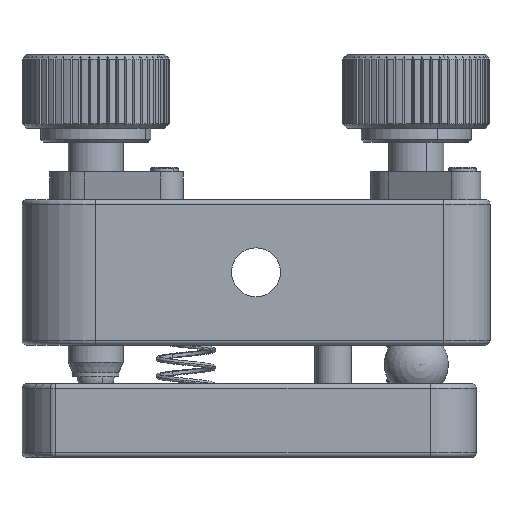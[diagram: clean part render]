
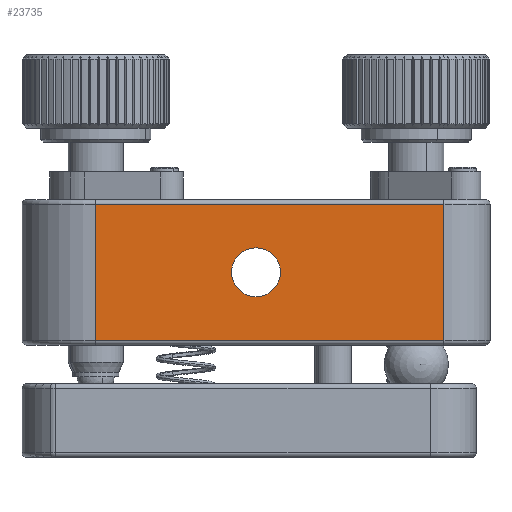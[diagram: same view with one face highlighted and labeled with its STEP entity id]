
A CAD part, left-side view. The second image highlights one B-rep face of the part: STEP entity #23735.
In plain terms, the highlighted planar face has unit normal (-1, 0, 0).
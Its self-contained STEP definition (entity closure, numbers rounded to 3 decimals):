
#33 = CARTESIAN_POINT ( 'NONE',  ( 31.252, 32.866, -43.489 ) ) ;
#610 = VERTEX_POINT ( 'NONE', #5942 ) ;
#1422 = EDGE_LOOP ( 'NONE', ( #4065, #3862 ) ) ;
#1604 = DIRECTION ( 'NONE',  ( 1., 0., 0. ) ) ;
#2029 = CARTESIAN_POINT ( 'NONE',  ( 31.252, 70.666, -43.489 ) ) ;
#3862 = ORIENTED_EDGE ( 'NONE', *, *, #11472, .F. ) ;
#4065 = ORIENTED_EDGE ( 'NONE', *, *, #4099, .F. ) ;
#4099 = EDGE_CURVE ( 'NONE', #31429, #11966, #26209, .T. ) ;
#4336 = FACE_OUTER_BOUND ( 'NONE', #13483, .T. ) ;
#4700 = LINE ( 'NONE', #15766, #23948 ) ;
#5734 = CARTESIAN_POINT ( 'NONE',  ( 31.252, 32.866, -42.989 ) ) ;
#5942 = CARTESIAN_POINT ( 'NONE',  ( 31.252, 32.866, -58.289 ) ) ;
#6265 = DIRECTION ( 'NONE',  ( 0., 0., -1. ) ) ;
#7019 = CARTESIAN_POINT ( 'NONE',  ( 31.252, 53.266, -50.889 ) ) ;
#9492 = CIRCLE ( 'NONE', #29844, 2.65 ) ;
#10110 = VECTOR ( 'NONE', #13104, 1000. ) ;
#10442 = EDGE_CURVE ( 'NONE', #18297, #13782, #26923, .T. ) ;
#10558 = AXIS2_PLACEMENT_3D ( 'NONE', #20086, #31178, #6265 ) ;
#10969 = CARTESIAN_POINT ( 'NONE',  ( 31.252, 70.666, -58.289 ) ) ;
#11472 = EDGE_CURVE ( 'NONE', #11966, #31429, #9492, .T. ) ;
#11917 = CARTESIAN_POINT ( 'NONE',  ( 31.252, 70.666, -58.289 ) ) ;
#11966 = VERTEX_POINT ( 'NONE', #27486 ) ;
#12669 = DIRECTION ( 'NONE',  ( 0., 0., 1. ) ) ;
#13104 = DIRECTION ( 'NONE',  ( 0., 1., 0. ) ) ;
#13483 = EDGE_LOOP ( 'NONE', ( #26732, #29204, #13719, #29091 ) ) ;
#13719 = ORIENTED_EDGE ( 'NONE', *, *, #35928, .F. ) ;
#13782 = VERTEX_POINT ( 'NONE', #34479 ) ;
#15403 = PLANE ( 'NONE',  #27040 ) ;
#15766 = CARTESIAN_POINT ( 'NONE',  ( 31.252, 70.666, -42.989 ) ) ;
#16796 = DIRECTION ( 'NONE',  ( 0., 0., -1. ) ) ;
#16888 = CARTESIAN_POINT ( 'NONE',  ( 31.252, 53.266, -53.539 ) ) ;
#18094 = DIRECTION ( 'NONE',  ( -1., 0., 0. ) ) ;
#18297 = VERTEX_POINT ( 'NONE', #33 ) ;
#20086 = CARTESIAN_POINT ( 'NONE',  ( 31.252, 53.266, -50.889 ) ) ;
#20904 = VECTOR ( 'NONE', #16796, 1000. ) ;
#22048 = DIRECTION ( 'NONE',  ( 0., -1., 0. ) ) ;
#22771 = VERTEX_POINT ( 'NONE', #11917 ) ;
#22937 = VECTOR ( 'NONE', #22048, 1000. ) ;
#23521 = EDGE_CURVE ( 'NONE', #22771, #610, #35867, .T. ) ;
#23735 = ADVANCED_FACE ( 'NONE', ( #29226, #4336 ), #15403, .F. ) ;
#23948 = VECTOR ( 'NONE', #26861, 1000. ) ;
#25324 = EDGE_CURVE ( 'NONE', #13782, #22771, #4700, .T. ) ;
#26209 = CIRCLE ( 'NONE', #10558, 2.65 ) ;
#26501 = CARTESIAN_POINT ( 'NONE',  ( 31.252, 70.666, -42.989 ) ) ;
#26732 = ORIENTED_EDGE ( 'NONE', *, *, #25324, .T. ) ;
#26861 = DIRECTION ( 'NONE',  ( 0., 0., -1. ) ) ;
#26923 = LINE ( 'NONE', #2029, #10110 ) ;
#27040 = AXIS2_PLACEMENT_3D ( 'NONE', #26501, #1604, #12669 ) ;
#27486 = CARTESIAN_POINT ( 'NONE',  ( 31.252, 53.266, -48.239 ) ) ;
#29091 = ORIENTED_EDGE ( 'NONE', *, *, #10442, .T. ) ;
#29194 = DIRECTION ( 'NONE',  ( 0., 0., -1. ) ) ;
#29204 = ORIENTED_EDGE ( 'NONE', *, *, #23521, .T. ) ;
#29226 = FACE_BOUND ( 'NONE', #1422, .T. ) ;
#29844 = AXIS2_PLACEMENT_3D ( 'NONE', #7019, #18094, #29194 ) ;
#30626 = LINE ( 'NONE', #5734, #20904 ) ;
#31178 = DIRECTION ( 'NONE',  ( -1., 0., 0. ) ) ;
#31429 = VERTEX_POINT ( 'NONE', #16888 ) ;
#34479 = CARTESIAN_POINT ( 'NONE',  ( 31.252, 70.666, -43.489 ) ) ;
#35867 = LINE ( 'NONE', #10969, #22937 ) ;
#35928 = EDGE_CURVE ( 'NONE', #18297, #610, #30626, .T. ) ;
